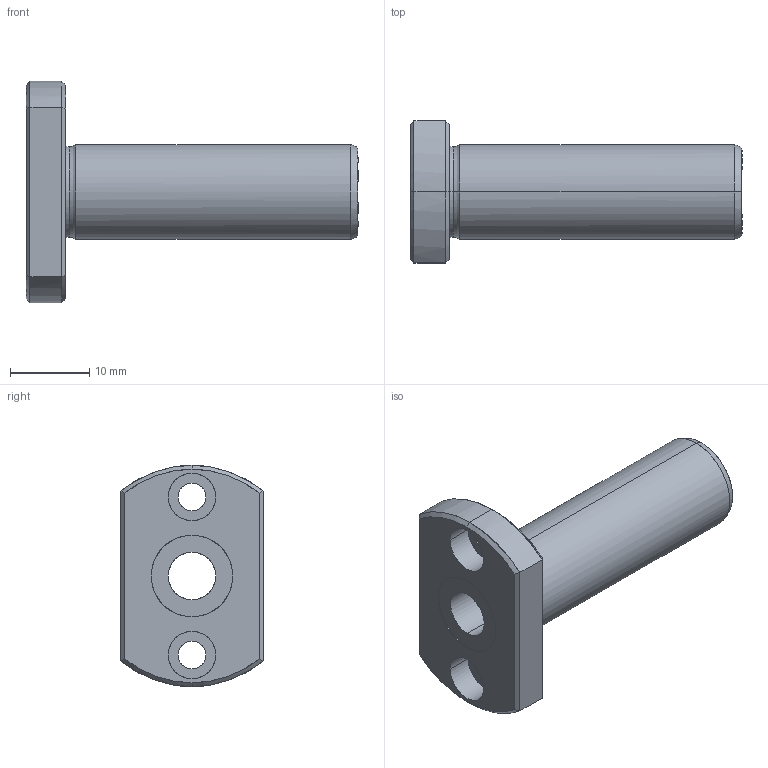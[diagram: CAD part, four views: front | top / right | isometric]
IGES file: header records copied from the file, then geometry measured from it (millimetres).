
Global section: file name: No Iges File Name specified; native system: AutoDesk Inventor R10; preprocessor: AutoDesk Inventor Iges Exporter R10; author: No Author specified; organization: No Organization specified; date: 20101216.154351; units: millimetre
Bounding box: 42 x 18 x 28 mm (x, y, z)
Surface area: 3544.2 mm2 (no closed solid volume)
Topology: 0 solids, 0 shells, 47 faces, 280 edges, 280 vertices
Faces by surface type: bspline 47
